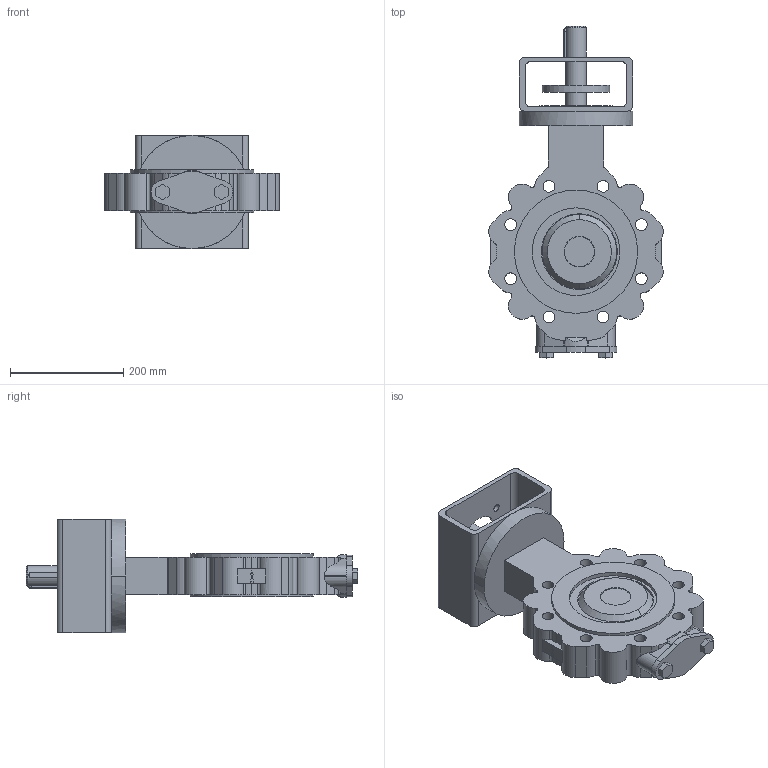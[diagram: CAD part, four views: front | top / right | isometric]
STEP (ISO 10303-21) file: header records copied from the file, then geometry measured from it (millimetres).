
FILE_DESCRIPTION( ( '' ), '1' );
FILE_NAME( 'F:/DE-SHS/TB/OR/04-Sonstiges/daten/files_3d/018_ZETRIX-PN10_freiesWellende/c000006381.stp', '2016-09-01T11:05:46', ( '' ), ( '' ), ' ', ' ', ' ' );
FILE_SCHEMA( ( 'CONFIG_CONTROL_DESIGN' ) );
Length unit declared in the file: millimetre
Products named in the file (1): 1
Bounding box: 308.29 x 586.9 x 200 mm (x, y, z)
Volume: 6829680.4 mm3; surface area: 604482.2 mm2
Topology: 1 solids, 1 shells, 274 faces, 760 edges, 504 vertices
Faces by surface type: cylinder 158, plane 110, cone 4, sphere 2
Entity records: 9926 total; most frequent: CARTESIAN_POINT 2515, DIRECTION 1626, ORIENTED_EDGE 1520, EDGE_CURVE 760, AXIS2_PLACEMENT_3D 625, VERTEX_POINT 504, LINE 376, VECTOR 376
